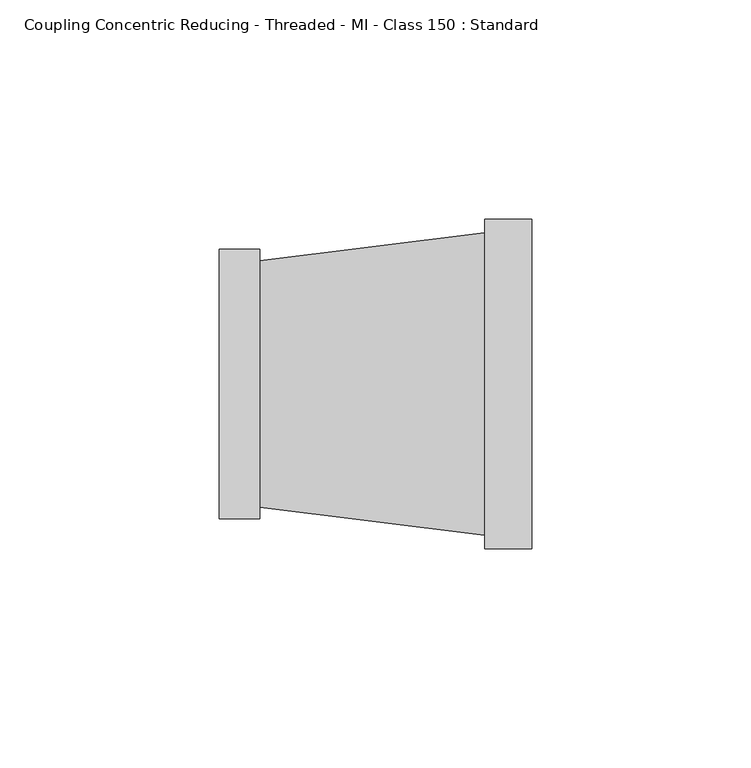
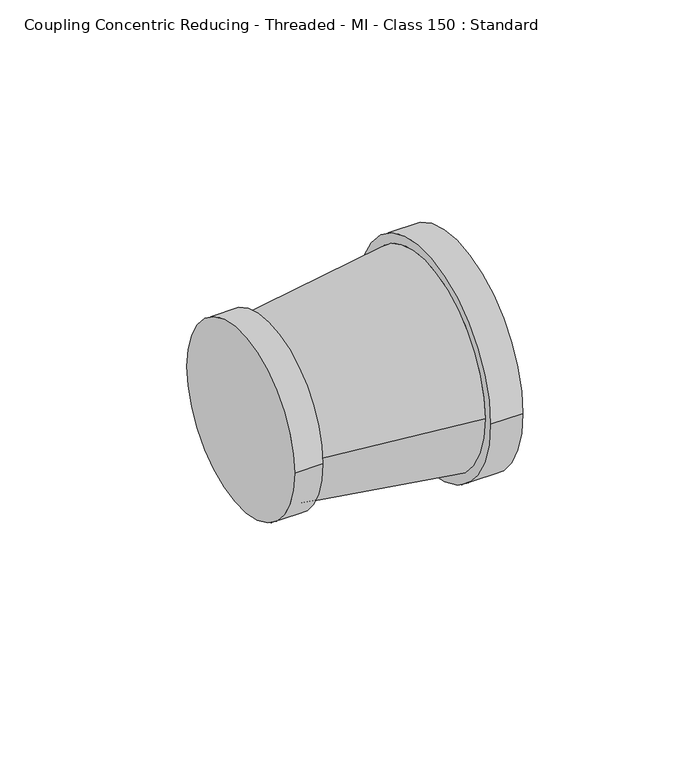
"""IFC4 building model written with IfcOpenShell, lengths in millimetres: pipe fitting geometry, Coupling Concentric Reducing - Threaded - MI - Class 150 : Standard."""

from ifc_helpers import new_model, si_unit, frame, origin, place, context, project, spatial, polyline, circle_curve, source, transform, mapped, element, save
from ifc_brep_helpers import plane_surface, cylinder_surface, revolved_surface, advanced_brep


def coupling_concentric_reducing_threaded_mi_class_150_standard_f28a3886(model_context):
    return source(origin(), model_context, "Body", "AdvancedBrep", [
        advanced_brep(
        [(9.3, 28.09, 0.0), (60.7, 34.54, 0.0), (60.7, -34.54, 0.0), (9.3, -28.09, 0.0), (71.4, -37.65, 0.0), (71.4, 37.65, 0.0), (60.7, -37.65, 0.0), (60.7, 37.65, 0.0), (9.3, -30.8, 0.0), (9.3, 30.8, 0.0), (0.0, -30.8, 0.0), (0.0, 30.8, 0.0)],
        [
            (0, 1),
            (1, 2, circle_curve(frame((60.7, 0.0, 0.0), z_axis=(-1.0, 0.0, 0.0), x_axis=(0.0, -1.0, 0.0)), 34.54)),
            (2, 3),
            (3, 0, circle_curve(frame((9.3, 0.0, 0.0), z_axis=(1.0, 0.0, 0.0), x_axis=(0.0, -1.0, 0.0)), 28.09)),
            (0, 3, circle_curve(frame((9.3, 0.0, 0.0), z_axis=(1.0, 0.0, 0.0), x_axis=(0.0, 1.0, 0.0)), 28.09)),
            (2, 1, circle_curve(frame((60.7, 0.0, 0.0), z_axis=(-1.0, 0.0, 0.0), x_axis=(0.0, 1.0, 0.0)), 34.54)),
            (4, 5, circle_curve(frame((71.4, 0.0, 0.0), z_axis=(1.0, 0.0, 0.0), x_axis=(0.0, 1.0, 0.0)), 37.65)),
            (5, 4, circle_curve(frame((71.4, 0.0, 0.0), z_axis=(1.0, 0.0, 0.0), x_axis=(0.0, 1.0, 0.0)), 37.65)),
            (6, 7, circle_curve(frame((60.7, 0.0, 0.0), z_axis=(-1.0, 0.0, 0.0), x_axis=(0.0, 1.0, 0.0)), 37.65)),
            (7, 6, circle_curve(frame((60.7, 0.0, 0.0), z_axis=(-1.0, 0.0, 0.0), x_axis=(0.0, 1.0, 0.0)), 37.65)),
            (4, 6),
            (7, 5),
            (8, 9, circle_curve(frame((9.3, 0.0, 0.0), z_axis=(1.0, 0.0, 0.0), x_axis=(0.0, 1.0, 0.0)), 30.8)),
            (9, 8, circle_curve(frame((9.3, 0.0, 0.0), z_axis=(1.0, 0.0, 0.0), x_axis=(0.0, 1.0, 0.0)), 30.8)),
            (10, 11, circle_curve(frame((0.0, 0.0, 0.0), z_axis=(-1.0, 0.0, 0.0), x_axis=(0.0, 1.0, 0.0)), 30.8)),
            (11, 10, circle_curve(frame((0.0, 0.0, 0.0), z_axis=(-1.0, 0.0, 0.0), x_axis=(0.0, 1.0, 0.0)), 30.8)),
            (8, 10),
            (11, 9),
        ],
        [
            revolved_surface(polyline([(9.300000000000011, 28.089999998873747, 0.0), (60.69999999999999, 34.54, 0.0)]), (-214.5489922, 0.0, 0.0), (1.0, 0.0, 0.0)),
            plane_surface(frame((71.4, 37.65, 0.0), z_axis=(1.0, 0.0, 0.0), x_axis=(0.0, 0.0, 1.0))),
            plane_surface(frame((60.7, 37.65, 0.0), z_axis=(-1.0, 0.0, 0.0), x_axis=(0.0, 0.0, -1.0))),
            cylinder_surface(frame((60.7, 0.0, 0.0), z_axis=(1.0, 0.0, 0.0), x_axis=(0.0, 1.0, 0.0)), 37.65),
            plane_surface(frame((9.3, 30.8, 0.0), z_axis=(1.0, 0.0, 0.0), x_axis=(0.0, 0.0, 1.0))),
            plane_surface(frame((0.0, 30.8, 0.0), z_axis=(-1.0, 0.0, 0.0), x_axis=(0.0, 0.0, -1.0))),
            cylinder_surface(frame((0.0, 0.0, 0.0), z_axis=(1.0, 0.0, 0.0), x_axis=(0.0, 1.0, 0.0)), 30.8),
        ],
        [
            (0, [[1, 2, 3, 4]]),
            (0, [[-1, 5, -3, 6]]),
            (1, [[7, 8]]),
            (2, [[9, 10], [-2, -6]]),
            (3, [[-7, 11, -10, 12]]),
            (3, [[-8, -12, -9, -11]]),
            (4, [[13, 14], [-4, -5]]),
            (5, [[15, 16]]),
            (6, [[-13, 17, -16, 18]]),
            (6, [[-14, -18, -15, -17]]),
        ],
    ),
    ])


if __name__ == "__main__":
    model = new_model("IFC4")
    model_context = context("Model", 3, world=origin())
    ifc_project = project(units=[si_unit("LENGTHUNIT", "METRE", prefix="MILLI")], contexts=[model_context])
    site = spatial("IfcSite", under=ifc_project)
    building = spatial("IfcBuilding", under=site)
    placement = place(None, origin())
    coupling_concentric_reducing_threaded_mi_class_150_standard_shape = coupling_concentric_reducing_threaded_mi_class_150_standard_f28a3886(model_context)
    element("IfcPipeFitting", 1, ObjectType="Coupling Concentric Reducing - Threaded - MI - Class 150 : Standard", at=placement, inside=building, context=model_context, shape_type="MappedRepresentation", body=[
        mapped(coupling_concentric_reducing_threaded_mi_class_150_standard_shape, transform((0.0, 0.0, 0.0), x_axis=(1.0, 0.0, 0.0), y_axis=(0.0, 1.0, 0.0), z_axis=(0.0, 0.0, 1.0))),
    ])
    save(model, "model.ifc")
